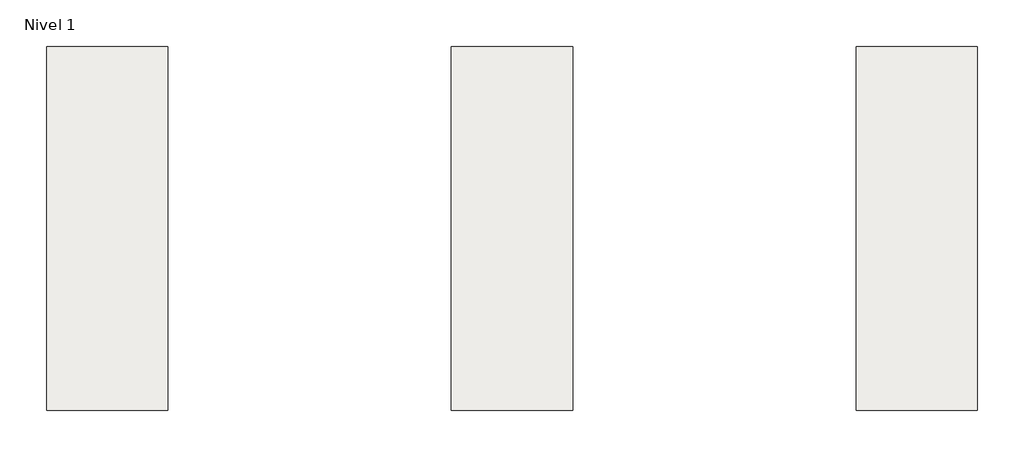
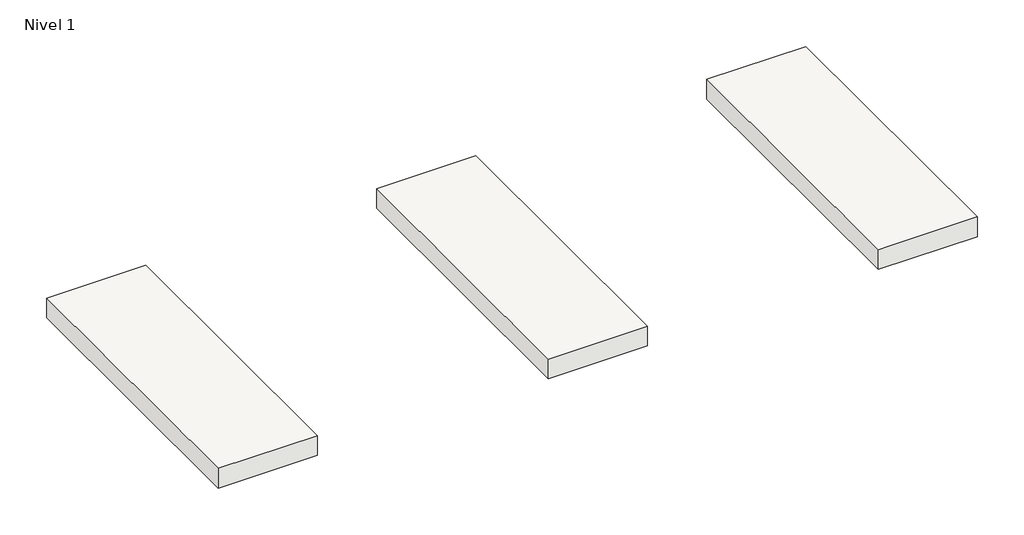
# One storey: 3 slabs.
"""IFC4 building model written with IfcOpenShell, lengths in millimetres."""

from ifc_helpers import new_model, si_unit, frame, origin, place, context, project, spatial, polyline, outline, extrude, element, save

model = new_model("IFC4")

# Units and contexts
model_context = context("Model", 3, world=origin())
ifc_project = project(units=[si_unit("LENGTHUNIT", "METRE", prefix="MILLI")], contexts=[model_context])

# Site, building, storey
site = spatial("IfcSite", under=ifc_project)
building = spatial("IfcBuilding", under=site)
storey = spatial("IfcBuildingStorey", under=building, Name="Nivel 1", Elevation=0.0)

# Slabs
placement = place(None, origin())
element("IfcSlab", 1, ObjectType="Corea 30X90", at=placement, inside=storey, context=model_context, shape_type="SweptSolid", body=[
    extrude(outline(polyline([(0.0, 900.0), (300.0, 900.0), (300.0, 0.0), (0.0, 0.0), (0.0, 900.0)])), frame((0.0, 0.0, -63.0), z_axis=(0.0, 0.0, 1.0), x_axis=(1.0, 0.0, 0.0)), (0.0, 0.0, 1.0), 63.0),
])
element("IfcSlab", 2, ObjectType="Nara 30X90", at=placement, inside=storey, context=model_context, shape_type="SweptSolid", body=[
    extrude(outline(polyline([(1000.0, 900.0), (1300.0, 900.0), (1300.0, 0.0), (1000.0, 0.0), (1000.0, 900.0)])), frame((0.0, 0.0, -63.0), z_axis=(0.0, 0.0, 1.0), x_axis=(1.0, 0.0, 0.0)), (0.0, 0.0, 1.0), 63.0),
])
element("IfcSlab", 3, ObjectType="Sendai 30X90", at=placement, inside=storey, context=model_context, shape_type="SweptSolid", body=[
    extrude(outline(polyline([(2000.0, 900.0), (2300.0, 900.0), (2300.0, 0.0), (2000.0, 0.0), (2000.0, 900.0)])), frame((0.0, 0.0, -63.0), z_axis=(0.0, 0.0, 1.0), x_axis=(1.0, 0.0, 0.0)), (0.0, 0.0, 1.0), 63.0),
])

save(model, "model.ifc")
